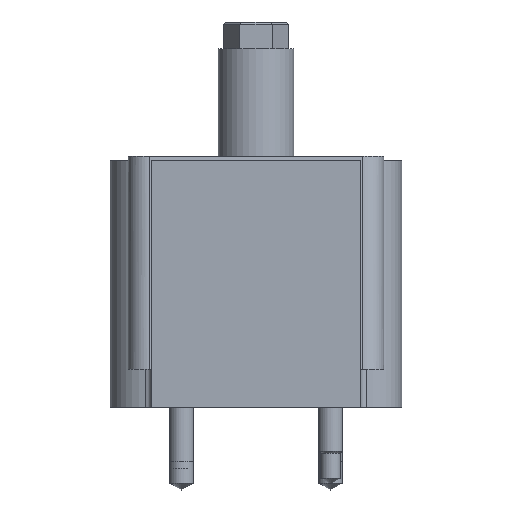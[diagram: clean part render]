
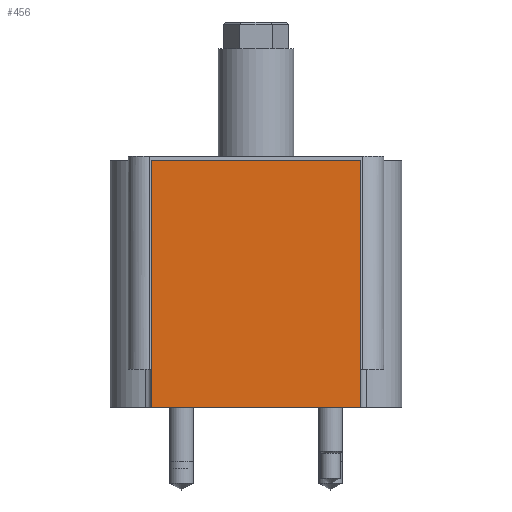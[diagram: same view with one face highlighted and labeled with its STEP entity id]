
A CAD part, left-side view. The second image highlights one B-rep face of the part: STEP entity #456.
In plain terms, the highlighted planar face has unit normal (-1, 0, 0).
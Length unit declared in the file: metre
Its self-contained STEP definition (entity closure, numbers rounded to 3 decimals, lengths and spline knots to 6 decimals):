
#456=ADVANCED_FACE('',(#1058),#1059,.T.);
#1058=FACE_OUTER_BOUND('',#2044,.T.);
#1059=PLANE('',#2045);
#2044=EDGE_LOOP('',(#11465,#11466,#11467,#11468));
#2045=AXIS2_PLACEMENT_3D('',#11469,#11470,#11471);
#11465=ORIENTED_EDGE('',*,*,#13227,.F.);
#11466=ORIENTED_EDGE('',*,*,#13191,.T.);
#11467=ORIENTED_EDGE('',*,*,#13204,.F.);
#11468=ORIENTED_EDGE('',*,*,#13213,.T.);
#11469=CARTESIAN_POINT('',(-0.084201,0.0,0.0));
#11470=DIRECTION('',(-1.0,0.0,0.0));
#11471=DIRECTION('',(0.0,0.0,1.0));
#13191=EDGE_CURVE('',#13867,#13865,#13868,.T.);
#13204=EDGE_CURVE('',#13887,#13865,#13889,.F.);
#13213=EDGE_CURVE('',#13887,#13903,#13905,.T.);
#13227=EDGE_CURVE('',#13867,#13903,#13919,.F.);
#13865=VERTEX_POINT('',#14840);
#13867=VERTEX_POINT('',#14843);
#13868=LINE('',#14844,#14845);
#13887=VERTEX_POINT('',#14866);
#13889=LINE('',#14869,#14870);
#13903=VERTEX_POINT('',#14887);
#13905=LINE('',#14890,#14891);
#13919=LINE('',#14911,#14912);
#14840=CARTESIAN_POINT('',(-0.084201,-0.034988,0.0));
#14843=CARTESIAN_POINT('',(-0.084201,0.034988,0.0));
#14844=CARTESIAN_POINT('',(-0.084201,0.0,0.0));
#14845=VECTOR('',#18239,1.0);
#14866=CARTESIAN_POINT('',(-0.084201,-0.034988,0.08255));
#14869=CARTESIAN_POINT('',(-0.084201,-0.034988,0.0));
#14870=VECTOR('',#18261,1.0);
#14887=CARTESIAN_POINT('',(-0.084201,0.034988,0.08255));
#14890=CARTESIAN_POINT('',(-0.084201,0.0,0.08255));
#14891=VECTOR('',#18275,1.0);
#14911=CARTESIAN_POINT('',(-0.084201,0.034988,0.0));
#14912=VECTOR('',#18285,1.0);
#18239=DIRECTION('',(-0.0,-1.0,-0.0));
#18261=DIRECTION('',(0.0,0.0,1.0));
#18275=DIRECTION('',(0.0,1.0,0.0));
#18285=DIRECTION('',(0.0,0.0,-1.0));
